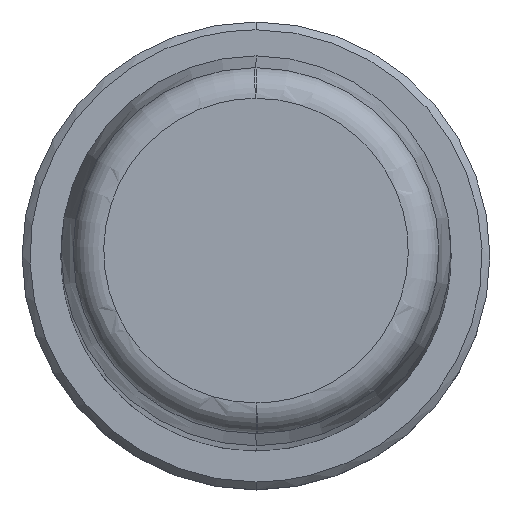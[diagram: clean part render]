
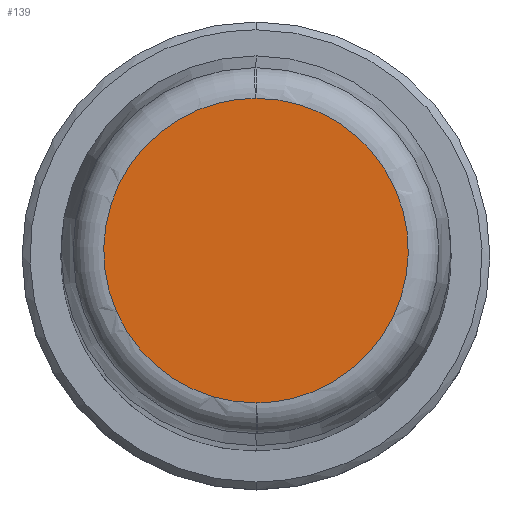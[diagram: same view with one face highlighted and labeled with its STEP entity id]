
A CAD part, top view. The second image highlights one B-rep face of the part: STEP entity #139.
In plain terms, the highlighted planar face has unit normal (0, 0, 1).
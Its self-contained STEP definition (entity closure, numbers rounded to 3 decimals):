
#52=CARTESIAN_POINT('Axis2P3D Location',(0.,0.,200.)) ;
#58=CARTESIAN_POINT('Control Point',(0.06,-9.764,200.)) ;
#59=CARTESIAN_POINT('Control Point',(0.048,-9.764,200.)) ;
#60=CARTESIAN_POINT('Control Point',(0.036,-9.764,200.)) ;
#61=CARTESIAN_POINT('Control Point',(0.024,-9.764,200.)) ;
#62=CARTESIAN_POINT('Control Point',(0.012,-9.764,200.)) ;
#63=CARTESIAN_POINT('Control Point',(0.,-9.764,200.)) ;
#64=CARTESIAN_POINT('Vertex',(0.06,-9.764,200.)) ;
#66=CARTESIAN_POINT('Vertex',(0.,-9.764,200.)) ;
#70=CARTESIAN_POINT('Control Point',(0.,9.764,200.)) ;
#71=CARTESIAN_POINT('Control Point',(0.918,9.764,200.)) ;
#72=CARTESIAN_POINT('Control Point',(1.837,9.656,200.)) ;
#73=CARTESIAN_POINT('Control Point',(2.739,9.44,200.)) ;
#74=CARTESIAN_POINT('Control Point',(4.474,8.8,200.)) ;
#75=CARTESIAN_POINT('Control Point',(6.013,7.775,200.)) ;
#76=CARTESIAN_POINT('Control Point',(6.719,7.174,200.)) ;
#77=CARTESIAN_POINT('Control Point',(7.976,5.817,200.)) ;
#78=CARTESIAN_POINT('Control Point',(8.884,4.205,200.)) ;
#79=CARTESIAN_POINT('Control Point',(9.241,3.35,200.)) ;
#80=CARTESIAN_POINT('Control Point',(9.746,1.57,200.)) ;
#81=CARTESIAN_POINT('Control Point',(9.825,-0.277,200.)) ;
#82=CARTESIAN_POINT('Control Point',(9.755,-1.202,200.)) ;
#83=CARTESIAN_POINT('Control Point',(9.4,-3.017,200.)) ;
#84=CARTESIAN_POINT('Control Point',(8.632,-4.7,200.)) ;
#85=CARTESIAN_POINT('Control Point',(8.151,-5.492,200.)) ;
#86=CARTESIAN_POINT('Control Point',(7.012,-6.949,200.)) ;
#87=CARTESIAN_POINT('Control Point',(5.565,-8.102,200.)) ;
#88=CARTESIAN_POINT('Control Point',(4.777,-8.59,200.)) ;
#89=CARTESIAN_POINT('Control Point',(3.381,-9.242,200.)) ;
#90=CARTESIAN_POINT('Control Point',(1.89,-9.609,200.)) ;
#91=CARTESIAN_POINT('Control Point',(1.284,-9.708,200.)) ;
#92=CARTESIAN_POINT('Control Point',(0.672,-9.76,200.)) ;
#93=CARTESIAN_POINT('Control Point',(0.06,-9.764,200.)) ;
#94=CARTESIAN_POINT('Vertex',(0.,9.764,200.)) ;
#98=CARTESIAN_POINT('Control Point',(-0.06,9.764,200.)) ;
#99=CARTESIAN_POINT('Control Point',(-0.048,9.764,200.)) ;
#100=CARTESIAN_POINT('Control Point',(-0.036,9.764,200.)) ;
#101=CARTESIAN_POINT('Control Point',(-0.024,9.764,200.)) ;
#102=CARTESIAN_POINT('Control Point',(-0.012,9.764,200.)) ;
#103=CARTESIAN_POINT('Control Point',(0.,9.764,200.)) ;
#104=CARTESIAN_POINT('Vertex',(-0.06,9.764,200.)) ;
#108=CARTESIAN_POINT('Control Point',(0.,-9.764,200.)) ;
#109=CARTESIAN_POINT('Control Point',(-0.918,-9.764,200.)) ;
#110=CARTESIAN_POINT('Control Point',(-1.837,-9.656,200.)) ;
#111=CARTESIAN_POINT('Control Point',(-2.739,-9.44,200.)) ;
#112=CARTESIAN_POINT('Control Point',(-4.474,-8.8,200.)) ;
#113=CARTESIAN_POINT('Control Point',(-6.013,-7.775,200.)) ;
#114=CARTESIAN_POINT('Control Point',(-6.719,-7.174,200.)) ;
#115=CARTESIAN_POINT('Control Point',(-7.976,-5.817,200.)) ;
#116=CARTESIAN_POINT('Control Point',(-8.884,-4.205,200.)) ;
#117=CARTESIAN_POINT('Control Point',(-9.241,-3.35,200.)) ;
#118=CARTESIAN_POINT('Control Point',(-9.746,-1.57,200.)) ;
#119=CARTESIAN_POINT('Control Point',(-9.825,0.277,200.)) ;
#120=CARTESIAN_POINT('Control Point',(-9.755,1.202,200.)) ;
#121=CARTESIAN_POINT('Control Point',(-9.4,3.017,200.)) ;
#122=CARTESIAN_POINT('Control Point',(-8.632,4.7,200.)) ;
#123=CARTESIAN_POINT('Control Point',(-8.151,5.492,200.)) ;
#124=CARTESIAN_POINT('Control Point',(-7.012,6.949,200.)) ;
#125=CARTESIAN_POINT('Control Point',(-5.565,8.102,200.)) ;
#126=CARTESIAN_POINT('Control Point',(-4.777,8.59,200.)) ;
#127=CARTESIAN_POINT('Control Point',(-3.381,9.242,200.)) ;
#128=CARTESIAN_POINT('Control Point',(-1.89,9.609,200.)) ;
#129=CARTESIAN_POINT('Control Point',(-1.284,9.708,200.)) ;
#130=CARTESIAN_POINT('Control Point',(-0.672,9.76,200.)) ;
#131=CARTESIAN_POINT('Control Point',(-0.06,9.764,200.)) ;
#53=DIRECTION('Axis2P3D Direction',(0.,0.,1.)) ;
#54=DIRECTION('Axis2P3D XDirection',(0.,-1.,0.)) ;
#55=AXIS2_PLACEMENT_3D('Plane Axis2P3D',#52,#53,#54) ;
#134=ORIENTED_EDGE('',*,*,#68,.F.) ;
#135=ORIENTED_EDGE('',*,*,#96,.F.) ;
#136=ORIENTED_EDGE('',*,*,#106,.F.) ;
#137=ORIENTED_EDGE('',*,*,#132,.F.) ;
#139=ADVANCED_FACE('MANIFOLD_SOLID_BREP #450',(#138),#56,.T.) ;
#57=B_SPLINE_CURVE_WITH_KNOTS('',5,(#58,#59,#60,#61,#62,#63),.UNSPECIFIED.,.F.,.U.,(6,6),(43.294,43.379),.UNSPECIFIED.) ;
#69=B_SPLINE_CURVE_WITH_KNOTS('',5,(#70,#71,#72,#73,#74,#75,#76,#77,#78,#79,#80,#81,#82,#83,#84,#85,#86,#87,#88,#89,#90,#91,#92,#93),.UNSPECIFIED.,.F.,.U.,(6,3,3,3,3,3,3,6),(0.,6.495,12.989,19.484,25.978,32.473,38.967,43.294),.UNSPECIFIED.) ;
#97=B_SPLINE_CURVE_WITH_KNOTS('',5,(#98,#99,#100,#101,#102,#103),.UNSPECIFIED.,.F.,.U.,(6,6),(43.294,43.379),.UNSPECIFIED.) ;
#107=B_SPLINE_CURVE_WITH_KNOTS('',5,(#108,#109,#110,#111,#112,#113,#114,#115,#116,#117,#118,#119,#120,#121,#122,#123,#124,#125,#126,#127,#128,#129,#130,#131),.UNSPECIFIED.,.F.,.U.,(6,3,3,3,3,3,3,6),(0.,6.495,12.989,19.484,25.978,32.473,38.967,43.294),.UNSPECIFIED.) ;
#68=EDGE_CURVE('',#65,#67,#57,.T.) ;
#96=EDGE_CURVE('',#95,#65,#69,.T.) ;
#106=EDGE_CURVE('',#105,#95,#97,.T.) ;
#132=EDGE_CURVE('',#67,#105,#107,.T.) ;
#133=EDGE_LOOP('',(#134,#135,#136,#137)) ;
#138=FACE_OUTER_BOUND('',#133,.T.) ;
#56=PLANE('Plane',#55) ;
#65=VERTEX_POINT('',#64) ;
#67=VERTEX_POINT('',#66) ;
#95=VERTEX_POINT('',#94) ;
#105=VERTEX_POINT('',#104) ;
